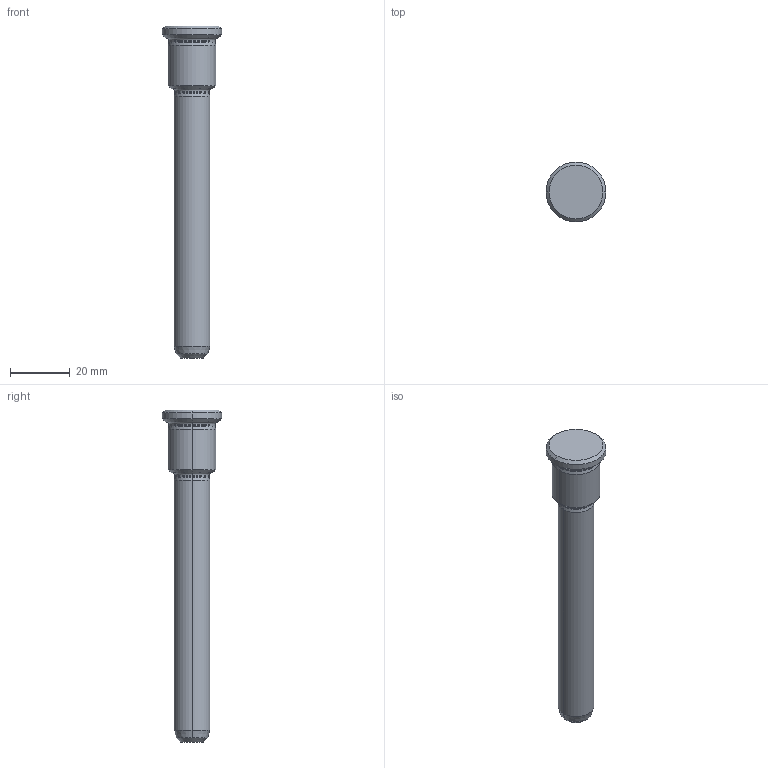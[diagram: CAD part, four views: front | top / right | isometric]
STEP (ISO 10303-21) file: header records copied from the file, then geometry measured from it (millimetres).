
FILE_DESCRIPTION (( 'STEP AP214' ), '1' );
FILE_NAME ('BRGC 12x21x90.STEP', '2019-12-19T09:24:03', ( 'August' ), ( '' ), 'SwSTEP 2.0', 'SolidWorks 2018', '' );
FILE_SCHEMA (( 'AUTOMOTIVE_DESIGN' ));
Length unit declared in the file: millimetre
Products named in the file (1): BRGC 12x21x90
Bounding box: 20 x 20 x 111 mm (x, y, z)
Volume: 14634.1 mm3; surface area: 4950.9 mm2
Topology: 1 solids, 1 shells, 36 faces, 70 edges, 38 vertices
Faces by surface type: cone 14, cylinder 10, torus 8, plane 4
Entity records: 946 total; most frequent: DIRECTION 190, CARTESIAN_POINT 145, ORIENTED_EDGE 140, AXIS2_PLACEMENT_3D 83, EDGE_CURVE 70, CIRCLE 46, VERTEX_POINT 38, EDGE_LOOP 38
